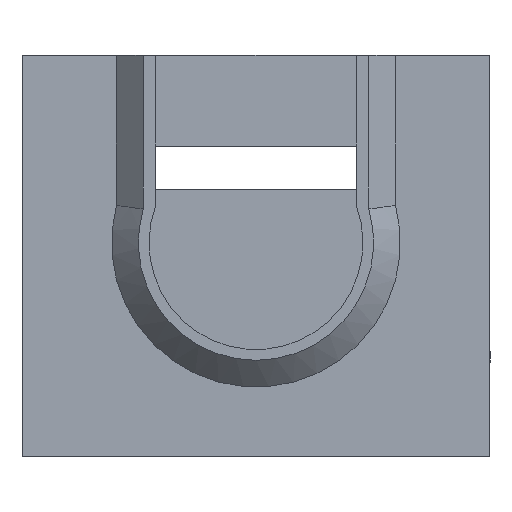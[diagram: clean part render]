
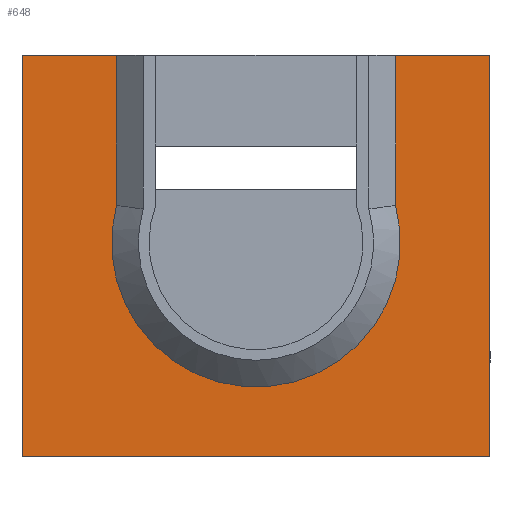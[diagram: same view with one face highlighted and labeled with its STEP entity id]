
A CAD part, left-side view. The second image highlights one B-rep face of the part: STEP entity #648.
In plain terms, the highlighted planar face has unit normal (-1, 0, 0).
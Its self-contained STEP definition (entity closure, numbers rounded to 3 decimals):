
#22 = VERTEX_POINT('',#23);
#23 = CARTESIAN_POINT('',(-12.,5.218,5.));
#32 = PLANE('',#33);
#33 = AXIS2_PLACEMENT_3D('',#34,#35,#36);
#34 = CARTESIAN_POINT('',(-5.643,0.,5.));
#35 = DIRECTION('',(0.,0.,1.));
#36 = DIRECTION('',(1.,0.,0.));
#44 = PLANE('',#45);
#45 = AXIS2_PLACEMENT_3D('',#46,#47,#48);
#46 = CARTESIAN_POINT('',(-12.,5.218,5.));
#47 = DIRECTION('',(-0.,-1.,-0.));
#48 = DIRECTION('',(0.,0.,-1.));
#355 = VERTEX_POINT('',#356);
#356 = CARTESIAN_POINT('',(-12.,-5.218,5.));
#370 = PLANE('',#371);
#371 = AXIS2_PLACEMENT_3D('',#372,#373,#374);
#372 = CARTESIAN_POINT('',(-12.,-5.218,5.));
#373 = DIRECTION('',(-0.,-1.,-0.));
#374 = DIRECTION('',(0.,0.,-1.));
#382 = EDGE_CURVE('',#355,#383,#385,.T.);
#383 = VERTEX_POINT('',#384);
#384 = CARTESIAN_POINT('',(-12.,-8.75,5.));
#385 = SURFACE_CURVE('',#386,(#390,#397),.PCURVE_S1.);
#386 = LINE('',#387,#388);
#387 = CARTESIAN_POINT('',(-12.,8.75,5.));
#388 = VECTOR('',#389,1.);
#389 = DIRECTION('',(0.,-1.,0.));
#390 = PCURVE('',#32,#391);
#391 = DEFINITIONAL_REPRESENTATION('',(#392),#396);
#392 = LINE('',#393,#394);
#393 = CARTESIAN_POINT('',(-6.357,8.75));
#394 = VECTOR('',#395,1.);
#395 = DIRECTION('',(0.,-1.));
#396 = ( GEOMETRIC_REPRESENTATION_CONTEXT(2) 
PARAMETRIC_REPRESENTATION_CONTEXT() REPRESENTATION_CONTEXT('2D SPACE',''
  ) );
#397 = PCURVE('',#398,#403);
#398 = PLANE('',#399);
#399 = AXIS2_PLACEMENT_3D('',#400,#401,#402);
#400 = CARTESIAN_POINT('',(-12.,8.75,-10.));
#401 = DIRECTION('',(-1.,0.,0.));
#402 = DIRECTION('',(0.,0.,1.));
#403 = DEFINITIONAL_REPRESENTATION('',(#404),#408);
#404 = LINE('',#405,#406);
#405 = CARTESIAN_POINT('',(15.,0.));
#406 = VECTOR('',#407,1.);
#407 = DIRECTION('',(0.,-1.));
#408 = ( GEOMETRIC_REPRESENTATION_CONTEXT(2) 
PARAMETRIC_REPRESENTATION_CONTEXT() REPRESENTATION_CONTEXT('2D SPACE',''
  ) );
#426 = PLANE('',#427);
#427 = AXIS2_PLACEMENT_3D('',#428,#429,#430);
#428 = CARTESIAN_POINT('',(-6.,-8.75,-2.5));
#429 = DIRECTION('',(0.,1.,0.));
#430 = DIRECTION('',(0.,0.,1.));
#467 = VERTEX_POINT('',#468);
#468 = CARTESIAN_POINT('',(-12.,8.75,5.));
#482 = PLANE('',#483);
#483 = AXIS2_PLACEMENT_3D('',#484,#485,#486);
#484 = CARTESIAN_POINT('',(-6.,8.75,-2.5));
#485 = DIRECTION('',(0.,1.,0.));
#486 = DIRECTION('',(0.,0.,1.));
#494 = EDGE_CURVE('',#467,#22,#495,.T.);
#495 = SURFACE_CURVE('',#496,(#500,#507),.PCURVE_S1.);
#496 = LINE('',#497,#498);
#497 = CARTESIAN_POINT('',(-12.,8.75,5.));
#498 = VECTOR('',#499,1.);
#499 = DIRECTION('',(0.,-1.,0.));
#500 = PCURVE('',#32,#501);
#501 = DEFINITIONAL_REPRESENTATION('',(#502),#506);
#502 = LINE('',#503,#504);
#503 = CARTESIAN_POINT('',(-6.357,8.75));
#504 = VECTOR('',#505,1.);
#505 = DIRECTION('',(0.,-1.));
#506 = ( GEOMETRIC_REPRESENTATION_CONTEXT(2) 
PARAMETRIC_REPRESENTATION_CONTEXT() REPRESENTATION_CONTEXT('2D SPACE',''
  ) );
#507 = PCURVE('',#398,#508);
#508 = DEFINITIONAL_REPRESENTATION('',(#509),#513);
#509 = LINE('',#510,#511);
#510 = CARTESIAN_POINT('',(15.,0.));
#511 = VECTOR('',#512,1.);
#512 = DIRECTION('',(0.,-1.));
#513 = ( GEOMETRIC_REPRESENTATION_CONTEXT(2) 
PARAMETRIC_REPRESENTATION_CONTEXT() REPRESENTATION_CONTEXT('2D SPACE',''
  ) );
#543 = VERTEX_POINT('',#544);
#544 = CARTESIAN_POINT('',(-12.,5.218,-0.608));
#558 = CYLINDRICAL_SURFACE('',#559,5.4);
#559 = AXIS2_PLACEMENT_3D('',#560,#561,#562);
#560 = CARTESIAN_POINT('',(-12.,0.,-2.));
#561 = DIRECTION('',(1.,0.,0.));
#562 = DIRECTION('',(0.,-1.,0.));
#570 = EDGE_CURVE('',#22,#543,#571,.T.);
#571 = SURFACE_CURVE('',#572,(#576,#583),.PCURVE_S1.);
#572 = LINE('',#573,#574);
#573 = CARTESIAN_POINT('',(-12.,5.218,5.));
#574 = VECTOR('',#575,1.);
#575 = DIRECTION('',(0.,0.,-1.));
#576 = PCURVE('',#44,#577);
#577 = DEFINITIONAL_REPRESENTATION('',(#578),#582);
#578 = LINE('',#579,#580);
#579 = CARTESIAN_POINT('',(0.,0.));
#580 = VECTOR('',#581,1.);
#581 = DIRECTION('',(1.,0.));
#582 = ( GEOMETRIC_REPRESENTATION_CONTEXT(2) 
PARAMETRIC_REPRESENTATION_CONTEXT() REPRESENTATION_CONTEXT('2D SPACE',''
  ) );
#583 = PCURVE('',#398,#584);
#584 = DEFINITIONAL_REPRESENTATION('',(#585),#589);
#585 = LINE('',#586,#587);
#586 = CARTESIAN_POINT('',(15.,-3.532));
#587 = VECTOR('',#588,1.);
#588 = DIRECTION('',(-1.,0.));
#589 = ( GEOMETRIC_REPRESENTATION_CONTEXT(2) 
PARAMETRIC_REPRESENTATION_CONTEXT() REPRESENTATION_CONTEXT('2D SPACE',''
  ) );
#648 = ADVANCED_FACE('',(#649),#398,.T.);
#649 = FACE_BOUND('',#650,.T.);
#650 = EDGE_LOOP('',(#651,#674,#702,#723,#724,#747,#769,#770));
#651 = ORIENTED_EDGE('',*,*,#652,.F.);
#652 = EDGE_CURVE('',#653,#467,#655,.T.);
#653 = VERTEX_POINT('',#654);
#654 = CARTESIAN_POINT('',(-12.,8.75,-10.));
#655 = SURFACE_CURVE('',#656,(#660,#667),.PCURVE_S1.);
#656 = LINE('',#657,#658);
#657 = CARTESIAN_POINT('',(-12.,8.75,-10.));
#658 = VECTOR('',#659,1.);
#659 = DIRECTION('',(0.,0.,1.));
#660 = PCURVE('',#398,#661);
#661 = DEFINITIONAL_REPRESENTATION('',(#662),#666);
#662 = LINE('',#663,#664);
#663 = CARTESIAN_POINT('',(0.,0.));
#664 = VECTOR('',#665,1.);
#665 = DIRECTION('',(1.,0.));
#666 = ( GEOMETRIC_REPRESENTATION_CONTEXT(2) 
PARAMETRIC_REPRESENTATION_CONTEXT() REPRESENTATION_CONTEXT('2D SPACE',''
  ) );
#667 = PCURVE('',#482,#668);
#668 = DEFINITIONAL_REPRESENTATION('',(#669),#673);
#669 = LINE('',#670,#671);
#670 = CARTESIAN_POINT('',(-7.5,-6.));
#671 = VECTOR('',#672,1.);
#672 = DIRECTION('',(1.,0.));
#673 = ( GEOMETRIC_REPRESENTATION_CONTEXT(2) 
PARAMETRIC_REPRESENTATION_CONTEXT() REPRESENTATION_CONTEXT('2D SPACE',''
  ) );
#674 = ORIENTED_EDGE('',*,*,#675,.T.);
#675 = EDGE_CURVE('',#653,#676,#678,.T.);
#676 = VERTEX_POINT('',#677);
#677 = CARTESIAN_POINT('',(-12.,-8.75,-10.));
#678 = SURFACE_CURVE('',#679,(#683,#690),.PCURVE_S1.);
#679 = LINE('',#680,#681);
#680 = CARTESIAN_POINT('',(-12.,8.75,-10.));
#681 = VECTOR('',#682,1.);
#682 = DIRECTION('',(0.,-1.,0.));
#683 = PCURVE('',#398,#684);
#684 = DEFINITIONAL_REPRESENTATION('',(#685),#689);
#685 = LINE('',#686,#687);
#686 = CARTESIAN_POINT('',(0.,0.));
#687 = VECTOR('',#688,1.);
#688 = DIRECTION('',(0.,-1.));
#689 = ( GEOMETRIC_REPRESENTATION_CONTEXT(2) 
PARAMETRIC_REPRESENTATION_CONTEXT() REPRESENTATION_CONTEXT('2D SPACE',''
  ) );
#690 = PCURVE('',#691,#696);
#691 = PLANE('',#692);
#692 = AXIS2_PLACEMENT_3D('',#693,#694,#695);
#693 = CARTESIAN_POINT('',(-4.333,0.,-10.));
#694 = DIRECTION('',(-0.,-0.,-1.));
#695 = DIRECTION('',(-1.,0.,0.));
#696 = DEFINITIONAL_REPRESENTATION('',(#697),#701);
#697 = LINE('',#698,#699);
#698 = CARTESIAN_POINT('',(7.667,8.75));
#699 = VECTOR('',#700,1.);
#700 = DIRECTION('',(0.,-1.));
#701 = ( GEOMETRIC_REPRESENTATION_CONTEXT(2) 
PARAMETRIC_REPRESENTATION_CONTEXT() REPRESENTATION_CONTEXT('2D SPACE',''
  ) );
#702 = ORIENTED_EDGE('',*,*,#703,.T.);
#703 = EDGE_CURVE('',#676,#383,#704,.T.);
#704 = SURFACE_CURVE('',#705,(#709,#716),.PCURVE_S1.);
#705 = LINE('',#706,#707);
#706 = CARTESIAN_POINT('',(-12.,-8.75,-10.));
#707 = VECTOR('',#708,1.);
#708 = DIRECTION('',(0.,0.,1.));
#709 = PCURVE('',#398,#710);
#710 = DEFINITIONAL_REPRESENTATION('',(#711),#715);
#711 = LINE('',#712,#713);
#712 = CARTESIAN_POINT('',(0.,-17.5));
#713 = VECTOR('',#714,1.);
#714 = DIRECTION('',(1.,0.));
#715 = ( GEOMETRIC_REPRESENTATION_CONTEXT(2) 
PARAMETRIC_REPRESENTATION_CONTEXT() REPRESENTATION_CONTEXT('2D SPACE',''
  ) );
#716 = PCURVE('',#426,#717);
#717 = DEFINITIONAL_REPRESENTATION('',(#718),#722);
#718 = LINE('',#719,#720);
#719 = CARTESIAN_POINT('',(-7.5,-6.));
#720 = VECTOR('',#721,1.);
#721 = DIRECTION('',(1.,0.));
#722 = ( GEOMETRIC_REPRESENTATION_CONTEXT(2) 
PARAMETRIC_REPRESENTATION_CONTEXT() REPRESENTATION_CONTEXT('2D SPACE',''
  ) );
#723 = ORIENTED_EDGE('',*,*,#382,.F.);
#724 = ORIENTED_EDGE('',*,*,#725,.T.);
#725 = EDGE_CURVE('',#355,#726,#728,.T.);
#726 = VERTEX_POINT('',#727);
#727 = CARTESIAN_POINT('',(-12.,-5.218,-0.608));
#728 = SURFACE_CURVE('',#729,(#733,#740),.PCURVE_S1.);
#729 = LINE('',#730,#731);
#730 = CARTESIAN_POINT('',(-12.,-5.218,5.));
#731 = VECTOR('',#732,1.);
#732 = DIRECTION('',(0.,0.,-1.));
#733 = PCURVE('',#398,#734);
#734 = DEFINITIONAL_REPRESENTATION('',(#735),#739);
#735 = LINE('',#736,#737);
#736 = CARTESIAN_POINT('',(15.,-13.968));
#737 = VECTOR('',#738,1.);
#738 = DIRECTION('',(-1.,0.));
#739 = ( GEOMETRIC_REPRESENTATION_CONTEXT(2) 
PARAMETRIC_REPRESENTATION_CONTEXT() REPRESENTATION_CONTEXT('2D SPACE',''
  ) );
#740 = PCURVE('',#370,#741);
#741 = DEFINITIONAL_REPRESENTATION('',(#742),#746);
#742 = LINE('',#743,#744);
#743 = CARTESIAN_POINT('',(0.,0.));
#744 = VECTOR('',#745,1.);
#745 = DIRECTION('',(1.,0.));
#746 = ( GEOMETRIC_REPRESENTATION_CONTEXT(2) 
PARAMETRIC_REPRESENTATION_CONTEXT() REPRESENTATION_CONTEXT('2D SPACE',''
  ) );
#747 = ORIENTED_EDGE('',*,*,#748,.F.);
#748 = EDGE_CURVE('',#543,#726,#749,.T.);
#749 = SURFACE_CURVE('',#750,(#755,#762),.PCURVE_S1.);
#750 = CIRCLE('',#751,5.4);
#751 = AXIS2_PLACEMENT_3D('',#752,#753,#754);
#752 = CARTESIAN_POINT('',(-12.,0.,-2.));
#753 = DIRECTION('',(-1.,0.,0.));
#754 = DIRECTION('',(0.,-1.,0.));
#755 = PCURVE('',#398,#756);
#756 = DEFINITIONAL_REPRESENTATION('',(#757),#761);
#757 = CIRCLE('',#758,5.4);
#758 = AXIS2_PLACEMENT_2D('',#759,#760);
#759 = CARTESIAN_POINT('',(8.,-8.75));
#760 = DIRECTION('',(0.,-1.));
#761 = ( GEOMETRIC_REPRESENTATION_CONTEXT(2) 
PARAMETRIC_REPRESENTATION_CONTEXT() REPRESENTATION_CONTEXT('2D SPACE',''
  ) );
#762 = PCURVE('',#558,#763);
#763 = DEFINITIONAL_REPRESENTATION('',(#764),#768);
#764 = LINE('',#765,#766);
#765 = CARTESIAN_POINT('',(-0.,0.));
#766 = VECTOR('',#767,1.);
#767 = DIRECTION('',(-1.,0.));
#768 = ( GEOMETRIC_REPRESENTATION_CONTEXT(2) 
PARAMETRIC_REPRESENTATION_CONTEXT() REPRESENTATION_CONTEXT('2D SPACE',''
  ) );
#769 = ORIENTED_EDGE('',*,*,#570,.F.);
#770 = ORIENTED_EDGE('',*,*,#494,.F.);
